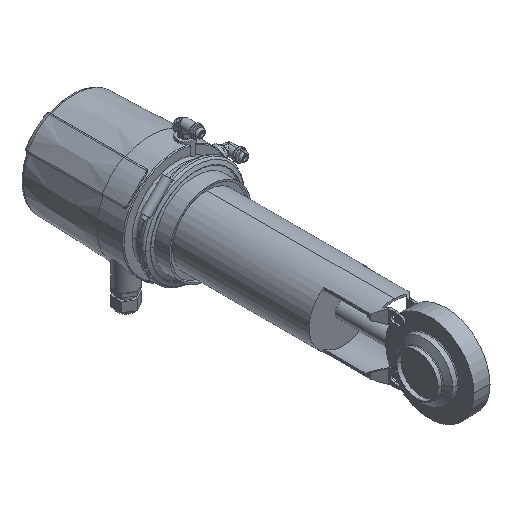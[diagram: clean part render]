
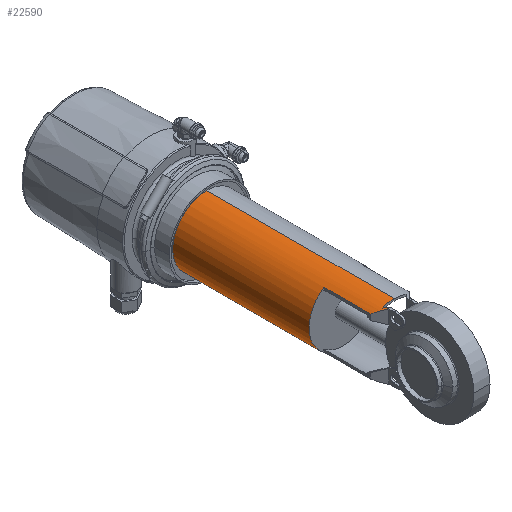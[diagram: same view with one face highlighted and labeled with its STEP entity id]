
A CAD part, isometric view. The second image highlights one B-rep face of the part: STEP entity #22590.
In plain terms, the highlighted cylindrical face has radius 42.5 mm (diameter 85 mm), a partial arc.
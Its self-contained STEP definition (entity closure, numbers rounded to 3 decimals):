
#19470=CARTESIAN_POINT('',(30.396,112.753,
35.075));
#19480=VERTEX_POINT('',#19470);
#19920=CARTESIAN_POINT('',(30.396,170.746,
35.075));
#19930=VERTEX_POINT('',#19920);
#19960=CARTESIAN_POINT('',(30.396,367.607,
35.075));
#19970=DIRECTION('',(0.,-1.,0.));
#19980=VECTOR('',#19970,1.);
#19990=LINE('',#19960,#19980);
#20000=EDGE_CURVE('',#19930,#19480,#19990,.T.);
#21150=CARTESIAN_POINT('',(54.396,170.746,
0.));
#21160=DIRECTION('',(0.,-1.,0.));
#21170=DIRECTION('',(0.,0.,-1.));
#21180=AXIS2_PLACEMENT_3D('',#21150,#21160,#21170);
#21190=CYLINDRICAL_SURFACE('',#21180,42.5);
#21200=CARTESIAN_POINT('',(54.396,92.288,
0.));
#21210=DIRECTION('',(0.707,0.707,0.));
#21220=DIRECTION('',(-0.707,0.707,0.));
#21230=AXIS2_PLACEMENT_3D('',#21200,#21210,#21220);
#21240=ELLIPSE('',#21230,60.104,42.5);
#21250=CARTESIAN_POINT('',(39.338,107.346,
39.743));
#21260=VERTEX_POINT('',#21250);
#21270=CARTESIAN_POINT('',(41.896,104.788,
40.62));
#21280=VERTEX_POINT('',#21270);
#21290=EDGE_CURVE('',#21260,#21280,#21240,.T.);
#21300=ORIENTED_EDGE('',*,*,#21290,.F.);
#21310=CARTESIAN_POINT('',(41.896,367.607,
40.62));
#21320=DIRECTION('',(0.,-1.,0.));
#21330=VECTOR('',#21320,1.);
#21340=LINE('',#21310,#21330);
#21350=CARTESIAN_POINT('',(41.896,101.253,
40.62));
#21360=VERTEX_POINT('',#21350);
#21370=EDGE_CURVE('',#21280,#21360,#21340,.T.);
#21380=ORIENTED_EDGE('',*,*,#21370,.F.);
#21390=CARTESIAN_POINT('',(54.396,88.753,
0.));
#21400=DIRECTION('',(-0.707,-0.707,0.));
#21410=DIRECTION('',(0.707,-0.707,0.));
#21420=AXIS2_PLACEMENT_3D('',#21390,#21400,#21410);
#21430=ELLIPSE('',#21420,60.104,42.5);
#21440=EDGE_CURVE('',#21360,#19480,#21430,.T.);
#21450=ORIENTED_EDGE('',*,*,#21440,.F.);
#21460=ORIENTED_EDGE('',*,*,#20000,.T.);
#21470=CARTESIAN_POINT('',(54.396,170.746,
0.));
#21480=DIRECTION('',(0.,-1.,0.));
#21490=DIRECTION('',(0.,0.,1.));
#21500=AXIS2_PLACEMENT_3D('',#21470,#21480,#21490);
#21510=CIRCLE('',#21500,42.5);
#21520=CARTESIAN_POINT('',(30.396,170.746,
-35.075));
#21530=VERTEX_POINT('',#21520);
#21540=EDGE_CURVE('',#19930,#21530,#21510,.T.);
#21550=ORIENTED_EDGE('',*,*,#21540,.F.);
#21560=CARTESIAN_POINT('',(30.396,367.607,
-35.075));
#21570=DIRECTION('',(0.,-1.,0.));
#21580=VECTOR('',#21570,1.);
#21590=LINE('',#21560,#21580);
#21600=CARTESIAN_POINT('',(30.396,112.753,
-35.075));
#21610=VERTEX_POINT('',#21600);
#21620=EDGE_CURVE('',#21530,#21610,#21590,.T.);
#21630=ORIENTED_EDGE('',*,*,#21620,.F.);
#21640=CARTESIAN_POINT('',(54.396,88.753,
0.));
#21650=DIRECTION('',(0.707,0.707,0.));
#21660=DIRECTION('',(0.707,-0.707,0.));
#21670=AXIS2_PLACEMENT_3D('',#21640,#21650,#21660);
#21680=ELLIPSE('',#21670,60.104,42.5);
#21690=CARTESIAN_POINT('',(41.896,101.253,
-40.62));
#21700=VERTEX_POINT('',#21690);
#21710=EDGE_CURVE('',#21700,#21610,#21680,.T.);
#21720=ORIENTED_EDGE('',*,*,#21710,.T.);
#21730=CARTESIAN_POINT('',(41.896,367.607,
-40.62));
#21740=DIRECTION('',(0.,-1.,0.));
#21750=VECTOR('',#21740,1.);
#21760=LINE('',#21730,#21750);
#21770=CARTESIAN_POINT('',(41.896,94.797,
-40.62));
#21780=VERTEX_POINT('',#21770);
#21790=EDGE_CURVE('',#21700,#21780,#21760,.T.);
#21800=ORIENTED_EDGE('',*,*,#21790,.F.);
#21810=CARTESIAN_POINT('',(54.396,-261.721,
0.));
#21820=DIRECTION('',(0.,-0.113,-0.994));
#21830=DIRECTION('',(0.,0.994,-0.113));
#21840=AXIS2_PLACEMENT_3D('',#21810,#21820,#21830);
#21850=ELLIPSE('',#21840,375.431,42.5);
#21860=CARTESIAN_POINT('',(43.749,99.4,
-41.145));
#21870=VERTEX_POINT('',#21860);
#21880=EDGE_CURVE('',#21780,#21870,#21850,.T.);
#21890=ORIENTED_EDGE('',*,*,#21880,.F.);
#21900=CARTESIAN_POINT('',(54.396,88.753,
0.));
#21910=DIRECTION('',(-0.707,-0.707,0.));
#21920=DIRECTION('',(-0.707,0.707,0.));
#21930=AXIS2_PLACEMENT_3D('',#21900,#21910,#21920);
#21940=ELLIPSE('',#21930,60.104,42.5);
#21950=CARTESIAN_POINT('',(44.396,98.753,
-41.307));
#21960=VERTEX_POINT('',#21950);
#21970=EDGE_CURVE('',#21870,#21960,#21940,.T.);
#21980=ORIENTED_EDGE('',*,*,#21970,.F.);
#21990=CARTESIAN_POINT('',(44.396,367.607,
-41.307));
#22000=DIRECTION('',(0.,-1.,0.));
#22010=VECTOR('',#22000,1.);
#22020=LINE('',#21990,#22010);
#22030=CARTESIAN_POINT('',(44.396,102.288,
-41.307));
#22040=VERTEX_POINT('',#22030);
#22050=EDGE_CURVE('',#22040,#21960,#22020,.T.);
#22060=ORIENTED_EDGE('',*,*,#22050,.T.);
#22070=CARTESIAN_POINT('',(54.396,92.288,
0.));
#22080=DIRECTION('',(0.707,0.707,0.));
#22090=DIRECTION('',(0.707,-0.707,0.));
#22100=AXIS2_PLACEMENT_3D('',#22070,#22080,#22090);
#22110=ELLIPSE('',#22100,60.104,42.5);
#22120=CARTESIAN_POINT('',(39.338,107.346,
-39.743));
#22130=VERTEX_POINT('',#22120);
#22140=EDGE_CURVE('',#22040,#22130,#22110,.T.);
#22150=ORIENTED_EDGE('',*,*,#22140,.F.);
#22160=CARTESIAN_POINT('',(54.396,107.346,
0.));
#22170=DIRECTION('',(0.,-1.,0.));
#22180=DIRECTION('',(0.,0.,-1.));
#22190=AXIS2_PLACEMENT_3D('',#22160,#22170,#22180);
#22200=CIRCLE('',#22190,42.5);
#22210=CARTESIAN_POINT('',(54.396,107.346,-42.5));
#22220=VERTEX_POINT('',#22210);
#22230=EDGE_CURVE('',#22130,#22220,#22200,.T.);
#22240=ORIENTED_EDGE('',*,*,#22230,.F.);
#22250=CARTESIAN_POINT('',(54.396,170.746,-42.5));
#22260=DIRECTION('',(0.,-1.,0.));
#22270=VECTOR('',#22260,1.);
#22280=LINE('',#22250,#22270);
#22290=CARTESIAN_POINT('',(54.396,340.746,-42.5));
#22300=VERTEX_POINT('',#22290);
#22310=EDGE_CURVE('',#22300,#22220,#22280,.T.);
#22320=ORIENTED_EDGE('',*,*,#22310,.T.);
#22330=CARTESIAN_POINT('',(54.396,340.746,
0.));
#22340=DIRECTION('',(0.,-1.,0.));
#22350=DIRECTION('',(0.,0.,-1.));
#22360=AXIS2_PLACEMENT_3D('',#22330,#22340,#22350);
#22370=CIRCLE('',#22360,42.5);
#22380=CARTESIAN_POINT('',(54.396,340.746,42.5));
#22390=VERTEX_POINT('',#22380);
#22400=EDGE_CURVE('',#22390,#22300,#22370,.T.);
#22410=ORIENTED_EDGE('',*,*,#22400,.T.);
#22420=CARTESIAN_POINT('',(54.396,170.746,42.5));
#22430=DIRECTION('',(0.,-1.,0.));
#22440=VECTOR('',#22430,1.);
#22450=LINE('',#22420,#22440);
#22460=CARTESIAN_POINT('',(54.396,107.346,42.5));
#22470=VERTEX_POINT('',#22460);
#22480=EDGE_CURVE('',#22390,#22470,#22450,.T.);
#22490=ORIENTED_EDGE('',*,*,#22480,.F.);
#22500=CARTESIAN_POINT('',(54.396,107.346,
0.));
#22510=DIRECTION('',(0.,-1.,0.));
#22520=DIRECTION('',(0.,0.,1.));
#22530=AXIS2_PLACEMENT_3D('',#22500,#22510,#22520);
#22540=CIRCLE('',#22530,42.5);
#22550=EDGE_CURVE('',#22470,#21260,#22540,.T.);
#22560=ORIENTED_EDGE('',*,*,#22550,.F.);
#22570=EDGE_LOOP('',(#22560,#22490,#22410,#22320,#22240,#22150,#22060,
#21980,#21890,#21800,#21720,#21630,#21550,#21460,#21450,#21380,#21300));
#22580=FACE_OUTER_BOUND('',#22570,.T.);
#22590=ADVANCED_FACE('',(#22580),#21190,.T.);
